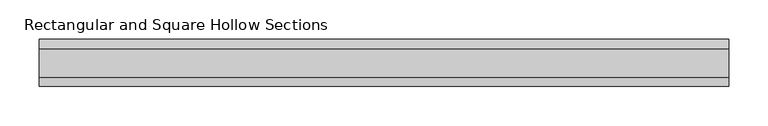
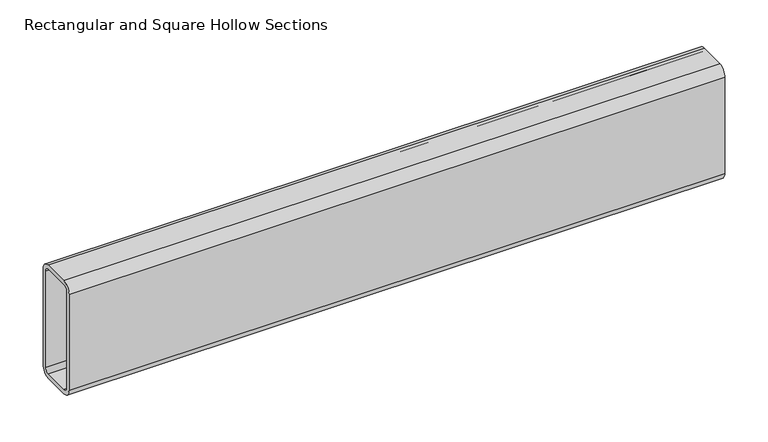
"""IFC4 building model written with IfcOpenShell, lengths in millimetres: beam geometry, Rectangular and Square Hollow Sections : TREC160x60x6."""

from ifc_helpers import new_model, si_unit, point, frame, frame_2d, origin, place, context, project, spatial, polyline, circle_curve, trimmed, segment, composite_curve, outline, extrude, source, transform, mapped, element, save


def rectangular_and_square_hollow_sections_afc23af1(model_context):
    return source(origin(), model_context, "Body", "SweptSolid", [
        extrude(outline(composite_curve([segment(polyline([(30.0, 68.0), (30.0, -68.0)]), True, "CONTINUOUS"), segment(trimmed(circle_curve(frame_2d((18.0, -68.0)), 12.0), [point((30.0, -68.0))], [point((18.0, -80.0))], False, "CARTESIAN"), True, "CONTINUOUS"), segment(polyline([(18.0, -80.0), (-18.0, -80.0)]), True, "CONTINUOUS"), segment(trimmed(circle_curve(frame_2d((-18.0, -68.0)), 12.0), [point((-18.0, -80.0))], [point((-30.0, -68.0))], False, "CARTESIAN"), True, "CONTINUOUS"), segment(polyline([(-30.0, -68.0), (-30.0, 68.0)]), True, "CONTINUOUS"), segment(trimmed(circle_curve(frame_2d((-18.0, 68.0)), 12.0), [point((-30.0, 68.0))], [point((-18.0, 80.0))], False, "CARTESIAN"), True, "CONTINUOUS"), segment(polyline([(-18.0, 80.0), (18.0, 80.0)]), True, "CONTINUOUS"), segment(trimmed(circle_curve(frame_2d((18.0, 68.0)), 12.0), [point((18.0, 80.0))], [point((30.0, 68.0))], False, "CARTESIAN"), True, "CONTINUOUS")], self_intersect=False), holes=[composite_curve([segment(trimmed(circle_curve(frame_2d((-18.0, 68.0)), 6.0), [point((-18.0, 74.0))], [point((-24.0, 68.0))], True, "CARTESIAN"), True, "CONTINUOUS"), segment(polyline([(-24.0, 68.0), (-24.0, -68.0)]), True, "CONTINUOUS"), segment(trimmed(circle_curve(frame_2d((-18.0, -68.0)), 6.0), [point((-24.0, -68.0))], [point((-18.0, -74.0))], True, "CARTESIAN"), True, "CONTINUOUS"), segment(polyline([(-18.0, -74.0), (18.0, -74.0)]), True, "CONTINUOUS"), segment(trimmed(circle_curve(frame_2d((18.0, -68.0)), 6.0), [point((18.0, -74.0))], [point((24.0, -68.0))], True, "CARTESIAN"), True, "CONTINUOUS"), segment(polyline([(24.0, -68.0), (24.0, 68.0)]), True, "CONTINUOUS"), segment(trimmed(circle_curve(frame_2d((18.0, 68.0)), 6.0), [point((24.0, 68.0))], [point((18.0, 74.0))], True, "CARTESIAN"), True, "CONTINUOUS"), segment(polyline([(18.0, 74.0), (-18.0, 74.0)]), True, "CONTINUOUS")], self_intersect=False)]), frame((-438.5, 0.0, 0.0), z_axis=(1.0, 0.0, 0.0), x_axis=(0.0, 1.0, 0.0)), (0.0, 0.0, 1.0), 877.0),
    ])


if __name__ == "__main__":
    model = new_model("IFC4")
    model_context = context("Model", 3, world=origin())
    ifc_project = project(units=[si_unit("LENGTHUNIT", "METRE", prefix="MILLI")], contexts=[model_context])
    site = spatial("IfcSite", under=ifc_project)
    building = spatial("IfcBuilding", under=site)
    placement = place(None, origin())
    rectangular_and_square_hollow_sections_shape = rectangular_and_square_hollow_sections_afc23af1(model_context)
    element("IfcBeam", 1, ObjectType="Rectangular and Square Hollow Sections : TREC160x60x6", at=placement, inside=building, context=model_context, shape_type="MappedRepresentation", body=[
        mapped(rectangular_and_square_hollow_sections_shape, transform((0.0, 0.0, 0.0), x_axis=(1.0, 0.0, 0.0), y_axis=(0.0, 1.0, 0.0), z_axis=(0.0, 0.0, 1.0))),
    ])
    save(model, "model.ifc")
